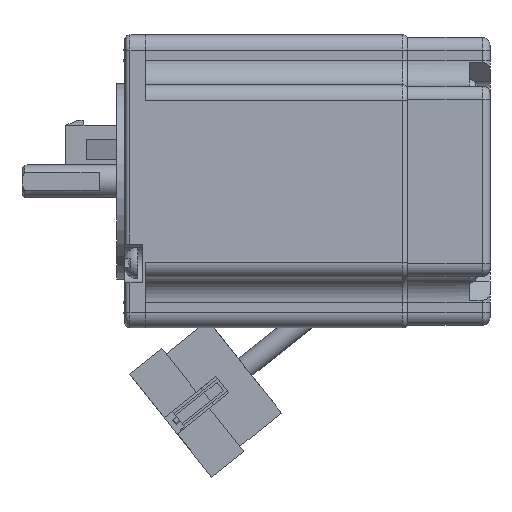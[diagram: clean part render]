
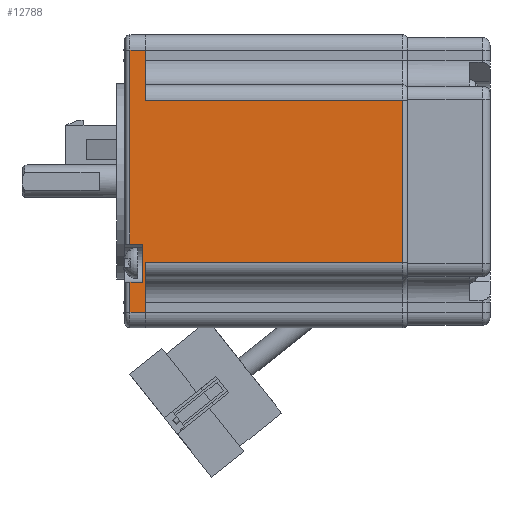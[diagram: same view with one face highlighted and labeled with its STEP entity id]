
A CAD part, front view. The second image highlights one B-rep face of the part: STEP entity #12788.
In plain terms, the highlighted planar face has unit normal (0, -1, 0).
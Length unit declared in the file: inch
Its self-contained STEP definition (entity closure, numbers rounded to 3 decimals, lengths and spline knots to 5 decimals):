
#410=LINE('',#19741,#1587);
#473=LINE('',#19910,#1650);
#474=LINE('',#19915,#1651);
#475=LINE('',#19917,#1652);
#476=LINE('',#19919,#1653);
#477=LINE('',#19921,#1654);
#478=LINE('',#19923,#1655);
#479=LINE('',#19925,#1656);
#480=LINE('',#19926,#1657);
#481=LINE('',#19928,#1658);
#482=LINE('',#19930,#1659);
#483=LINE('',#19931,#1660);
#1587=VECTOR('',#15388,1.24173);
#1650=VECTOR('',#15521,1.9685);
#1651=VECTOR('',#15526,1.48425);
#1652=VECTOR('',#15527,0.09843);
#1653=VECTOR('',#15528,0.29134);
#1654=VECTOR('',#15529,0.09843);
#1655=VECTOR('',#15530,0.23228);
#1656=VECTOR('',#15531,0.11811);
#1657=VECTOR('',#15532,0.38307);
#1658=VECTOR('',#15533,1.9685);
#1659=VECTOR('',#15534,0.38307);
#1660=VECTOR('',#15535,0.11811);
#3010=FACE_OUTER_BOUND('',#3808,.T.);
#3808=EDGE_LOOP('',(#8899,#8900,#8901,#8902,#8903,#8904,#8905,#8906,#8907,
#8908,#8909,#8910));
#5437=VERTEX_POINT('',#19715);
#5439=VERTEX_POINT('',#19739);
#5491=VERTEX_POINT('',#19909);
#5492=VERTEX_POINT('',#19913);
#5493=VERTEX_POINT('',#19914);
#5494=VERTEX_POINT('',#19916);
#5495=VERTEX_POINT('',#19918);
#5496=VERTEX_POINT('',#19920);
#5497=VERTEX_POINT('',#19922);
#5498=VERTEX_POINT('',#19924);
#5499=VERTEX_POINT('',#19927);
#5500=VERTEX_POINT('',#19929);
#6754=EDGE_CURVE('',#5439,#5437,#410,.T.);
#6830=EDGE_CURVE('',#5437,#5491,#473,.T.);
#6832=EDGE_CURVE('',#5492,#5493,#474,.T.);
#6833=EDGE_CURVE('',#5493,#5494,#475,.T.);
#6834=EDGE_CURVE('',#5494,#5495,#476,.T.);
#6835=EDGE_CURVE('',#5495,#5496,#477,.T.);
#6836=EDGE_CURVE('',#5496,#5497,#478,.T.);
#6837=EDGE_CURVE('',#5497,#5498,#479,.T.);
#6838=EDGE_CURVE('',#5498,#5491,#480,.T.);
#6839=EDGE_CURVE('',#5439,#5499,#481,.T.);
#6840=EDGE_CURVE('',#5499,#5500,#482,.T.);
#6841=EDGE_CURVE('',#5500,#5492,#483,.T.);
#8899=ORIENTED_EDGE('',*,*,#6832,.T.);
#8900=ORIENTED_EDGE('',*,*,#6833,.T.);
#8901=ORIENTED_EDGE('',*,*,#6834,.T.);
#8902=ORIENTED_EDGE('',*,*,#6835,.T.);
#8903=ORIENTED_EDGE('',*,*,#6836,.T.);
#8904=ORIENTED_EDGE('',*,*,#6837,.T.);
#8905=ORIENTED_EDGE('',*,*,#6838,.T.);
#8906=ORIENTED_EDGE('',*,*,#6830,.F.);
#8907=ORIENTED_EDGE('',*,*,#6754,.F.);
#8908=ORIENTED_EDGE('',*,*,#6839,.T.);
#8909=ORIENTED_EDGE('',*,*,#6840,.T.);
#8910=ORIENTED_EDGE('',*,*,#6841,.T.);
#12214=PLANE('',#13713);
#12788=ADVANCED_FACE('',(#3010),#12214,.T.);
#13713=AXIS2_PLACEMENT_3D('',#19912,#15524,#15525);
#15388=DIRECTION('',(0.,0.,-1.));
#15521=DIRECTION('',(-1.,0.,0.));
#15524=DIRECTION('center_axis',(0.,-1.,0.));
#15525=DIRECTION('ref_axis',(-1.,0.,0.));
#15526=DIRECTION('',(0.,0.,-1.));
#15527=DIRECTION('',(1.,0.,0.));
#15528=DIRECTION('',(0.,0.,-1.));
#15529=DIRECTION('',(-1.,0.,0.));
#15530=DIRECTION('',(0.,0.,-1.));
#15531=DIRECTION('',(1.,0.,0.));
#15532=DIRECTION('',(0.,0.,1.));
#15533=DIRECTION('',(-1.,0.,0.));
#15534=DIRECTION('',(0.,0.,1.));
#15535=DIRECTION('',(-1.,0.,0.));
#19715=CARTESIAN_POINT('',(3.09167,-2.24409,0.50118));
#19739=CARTESIAN_POINT('',(3.09167,-2.24409,1.74291));
#19741=CARTESIAN_POINT('',(3.09167,-2.24409,1.74291));
#19909=CARTESIAN_POINT('',(1.12317,-2.24409,0.50118));
#19910=CARTESIAN_POINT('',(3.13104,-2.24409,0.50118));
#19912=CARTESIAN_POINT('Origin',(3.13104,-2.24409,0.));
#19913=CARTESIAN_POINT('',(1.00506,-2.24409,2.12598));
#19914=CARTESIAN_POINT('',(1.00506,-2.24409,0.64173));
#19915=CARTESIAN_POINT('',(1.00506,-2.24409,0.));
#19916=CARTESIAN_POINT('',(1.10348,-2.24409,0.64173));
#19917=CARTESIAN_POINT('',(3.13104,-2.24409,0.64173));
#19918=CARTESIAN_POINT('',(1.10348,-2.24409,0.35039));
#19919=CARTESIAN_POINT('',(1.10348,-2.24409,0.));
#19920=CARTESIAN_POINT('',(1.00506,-2.24409,0.35039));
#19921=CARTESIAN_POINT('',(3.13104,-2.24409,0.35039));
#19922=CARTESIAN_POINT('',(1.00506,-2.24409,0.11811));
#19923=CARTESIAN_POINT('',(1.00506,-2.24409,0.));
#19924=CARTESIAN_POINT('',(1.12317,-2.24409,0.11811));
#19925=CARTESIAN_POINT('',(3.13104,-2.24409,0.11811));
#19926=CARTESIAN_POINT('',(1.12317,-2.24409,0.));
#19927=CARTESIAN_POINT('',(1.12317,-2.24409,1.74291));
#19928=CARTESIAN_POINT('',(3.13104,-2.24409,1.74291));
#19929=CARTESIAN_POINT('',(1.12317,-2.24409,2.12598));
#19930=CARTESIAN_POINT('',(1.12317,-2.24409,0.));
#19931=CARTESIAN_POINT('',(3.13104,-2.24409,2.12598));
